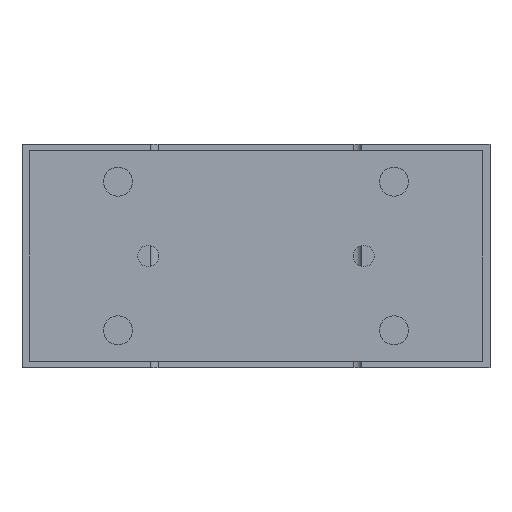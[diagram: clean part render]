
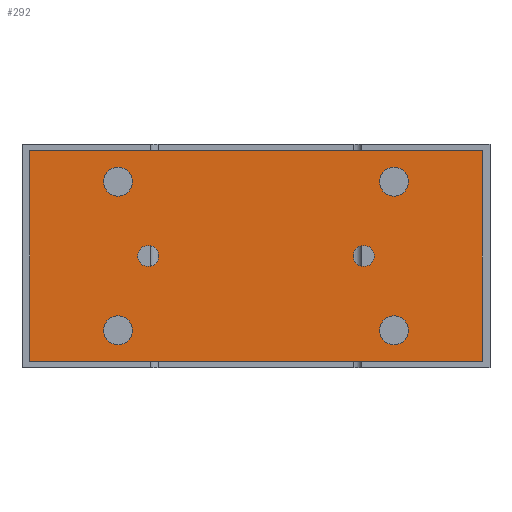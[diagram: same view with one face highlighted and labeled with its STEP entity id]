
A CAD part, left-side view. The second image highlights one B-rep face of the part: STEP entity #292.
In plain terms, the highlighted planar face has unit normal (-1, 0, 0).
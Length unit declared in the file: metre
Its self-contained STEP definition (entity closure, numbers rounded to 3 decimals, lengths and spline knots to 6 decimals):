
#292 = ADVANCED_FACE( '', ( #781, #782, #783, #784, #785, #786, #787 ), #788, .T. );
#781 = FACE_BOUND( '', #1581, .T. );
#782 = FACE_BOUND( '', #1582, .T. );
#783 = FACE_BOUND( '', #1583, .T. );
#784 = FACE_BOUND( '', #1584, .T. );
#785 = FACE_BOUND( '', #1585, .T. );
#786 = FACE_BOUND( '', #1586, .T. );
#787 = FACE_OUTER_BOUND( '', #1587, .T. );
#788 = PLANE( '', #1588 );
#1581 = EDGE_LOOP( '', ( #2466 ) );
#1582 = EDGE_LOOP( '', ( #2467 ) );
#1583 = EDGE_LOOP( '', ( #2468 ) );
#1584 = EDGE_LOOP( '', ( #2469 ) );
#1585 = EDGE_LOOP( '', ( #2470 ) );
#1586 = EDGE_LOOP( '', ( #2471 ) );
#1587 = EDGE_LOOP( '', ( #2472, #2473, #2474, #2475 ) );
#1588 = AXIS2_PLACEMENT_3D( '', #2476, #2477, #2478 );
#2466 = ORIENTED_EDGE( '', *, *, #3924, .F. );
#2467 = ORIENTED_EDGE( '', *, *, #3925, .F. );
#2468 = ORIENTED_EDGE( '', *, *, #3926, .F. );
#2469 = ORIENTED_EDGE( '', *, *, #3927, .F. );
#2470 = ORIENTED_EDGE( '', *, *, #3928, .F. );
#2471 = ORIENTED_EDGE( '', *, *, #3929, .T. );
#2472 = ORIENTED_EDGE( '', *, *, #3893, .T. );
#2473 = ORIENTED_EDGE( '', *, *, #3930, .T. );
#2474 = ORIENTED_EDGE( '', *, *, #3931, .T. );
#2475 = ORIENTED_EDGE( '', *, *, #3932, .T. );
#2476 = CARTESIAN_POINT( '', ( -0.118, -0.086, -0.0025 ) );
#2477 = DIRECTION( '', ( -1., 0., 0. ) );
#2478 = DIRECTION( '', ( 0., 0., 1. ) );
#3893 = EDGE_CURVE( '', #4521, #4519, #4522, .T. );
#3924 = EDGE_CURVE( '', #4576, #4576, #4577, .T. );
#3925 = EDGE_CURVE( '', #4578, #4578, #4579, .T. );
#3926 = EDGE_CURVE( '', #4580, #4580, #4581, .T. );
#3927 = EDGE_CURVE( '', #4582, #4582, #4583, .T. );
#3928 = EDGE_CURVE( '', #4584, #4584, #4585, .T. );
#3929 = EDGE_CURVE( '', #4586, #4586, #4587, .T. );
#3930 = EDGE_CURVE( '', #4519, #4588, #4589, .T. );
#3931 = EDGE_CURVE( '', #4588, #4590, #4591, .T. );
#3932 = EDGE_CURVE( '', #4590, #4521, #4592, .T. );
#4519 = VERTEX_POINT( '', #5426 );
#4521 = VERTEX_POINT( '', #5429 );
#4522 = LINE( '', #5430, #5431 );
#4576 = VERTEX_POINT( '', #5499 );
#4577 = CIRCLE( '', #5500, 0.0055 );
#4578 = VERTEX_POINT( '', #5501 );
#4579 = CIRCLE( '', #5502, 0.0055 );
#4580 = VERTEX_POINT( '', #5503 );
#4581 = CIRCLE( '', #5504, 0.0055 );
#4582 = VERTEX_POINT( '', #5505 );
#4583 = CIRCLE( '', #5506, 0.0055 );
#4584 = VERTEX_POINT( '', #5507 );
#4585 = CIRCLE( '', #5508, 0.004 );
#4586 = VERTEX_POINT( '', #5509 );
#4587 = CIRCLE( '', #5510, 0.004 );
#4588 = VERTEX_POINT( '', #5511 );
#4589 = LINE( '', #5512, #5513 );
#4590 = VERTEX_POINT( '', #5514 );
#4591 = LINE( '', #5515, #5516 );
#4592 = LINE( '', #5517, #5518 );
#5426 = CARTESIAN_POINT( '', ( -0.118, -0.086, -0.0025 ) );
#5429 = CARTESIAN_POINT( '', ( -0.118, -0.086, -0.0825 ) );
#5430 = CARTESIAN_POINT( '', ( -0.118, -0.086, -0.0825 ) );
#5431 = VECTOR( '', #6604, 1. );
#5499 = CARTESIAN_POINT( '', ( -0.118, -0.0525, -0.06525 ) );
#5500 = AXIS2_PLACEMENT_3D( '', #6652, #6653, #6654 );
#5501 = CARTESIAN_POINT( '', ( -0.118, 0.0525, -0.06525 ) );
#5502 = AXIS2_PLACEMENT_3D( '', #6655, #6656, #6657 );
#5503 = CARTESIAN_POINT( '', ( -0.118, -0.0525, -0.00875 ) );
#5504 = AXIS2_PLACEMENT_3D( '', #6658, #6659, #6660 );
#5505 = CARTESIAN_POINT( '', ( -0.118, 0.0525, -0.00875 ) );
#5506 = AXIS2_PLACEMENT_3D( '', #6661, #6662, #6663 );
#5507 = CARTESIAN_POINT( '', ( -0.118, -0.037, -0.0425 ) );
#5508 = AXIS2_PLACEMENT_3D( '', #6664, #6665, #6666 );
#5509 = CARTESIAN_POINT( '', ( -0.118, 0.037, -0.0425 ) );
#5510 = AXIS2_PLACEMENT_3D( '', #6667, #6668, #6669 );
#5511 = CARTESIAN_POINT( '', ( -0.118, 0.086, -0.0025 ) );
#5512 = CARTESIAN_POINT( '', ( -0.118, -0.086, -0.0025 ) );
#5513 = VECTOR( '', #6670, 1. );
#5514 = CARTESIAN_POINT( '', ( -0.118, 0.086, -0.0825 ) );
#5515 = CARTESIAN_POINT( '', ( -0.118, 0.086, -0.0025 ) );
#5516 = VECTOR( '', #6671, 1. );
#5517 = CARTESIAN_POINT( '', ( -0.118, 0.086, -0.0825 ) );
#5518 = VECTOR( '', #6672, 1. );
#6604 = DIRECTION( '', ( 0., 0., 1. ) );
#6652 = CARTESIAN_POINT( '', ( -0.118, -0.0525, -0.07075 ) );
#6653 = DIRECTION( '', ( -1., 0., 0. ) );
#6654 = DIRECTION( '', ( 0., 0., 1. ) );
#6655 = CARTESIAN_POINT( '', ( -0.118, 0.0525, -0.07075 ) );
#6656 = DIRECTION( '', ( -1., 0., 0. ) );
#6657 = DIRECTION( '', ( 0., 0., 1. ) );
#6658 = CARTESIAN_POINT( '', ( -0.118, -0.0525, -0.01425 ) );
#6659 = DIRECTION( '', ( -1., 0., 0. ) );
#6660 = DIRECTION( '', ( 0., 0., 1. ) );
#6661 = CARTESIAN_POINT( '', ( -0.118, 0.0525, -0.01425 ) );
#6662 = DIRECTION( '', ( -1., 0., 0. ) );
#6663 = DIRECTION( '', ( 0., 0., 1. ) );
#6664 = CARTESIAN_POINT( '', ( -0.118, -0.041, -0.0425 ) );
#6665 = DIRECTION( '', ( -1., 0., 0. ) );
#6666 = DIRECTION( '', ( 0., 1., 0. ) );
#6667 = CARTESIAN_POINT( '', ( -0.118, 0.041, -0.0425 ) );
#6668 = DIRECTION( '', ( 1., 0., 0. ) );
#6669 = DIRECTION( '', ( 0., -1., 0. ) );
#6670 = DIRECTION( '', ( 0., 1., 0. ) );
#6671 = DIRECTION( '', ( 0., 0., -1. ) );
#6672 = DIRECTION( '', ( 0., -1., 0. ) );
